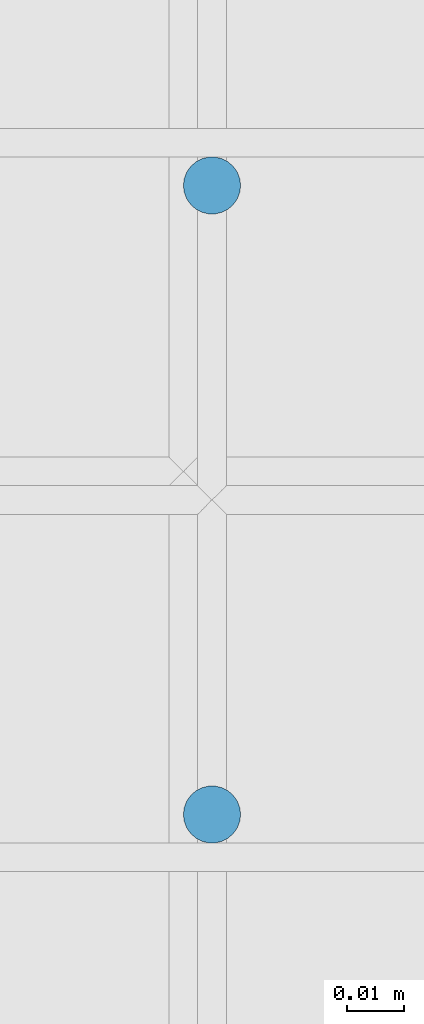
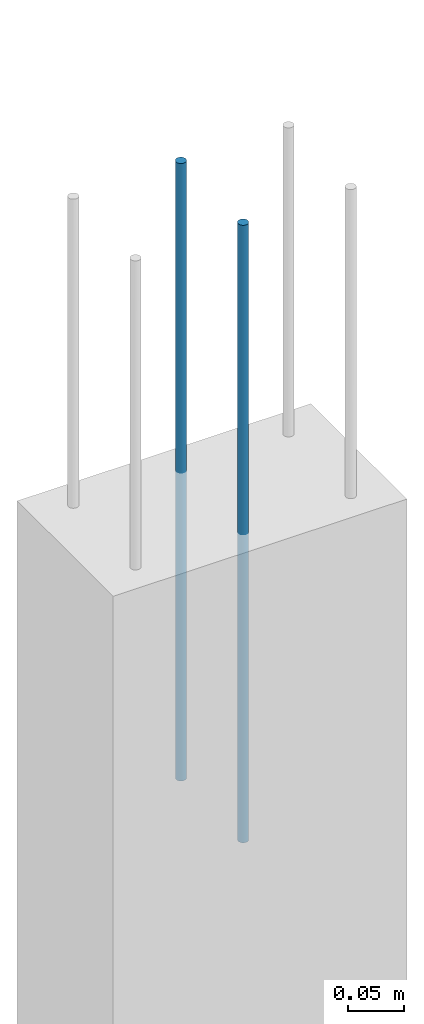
# One storey, part 96 of 119: 2 reinforcing bars.
"""IFC4 building model written with IfcOpenShell, lengths in centimetres."""

from ifc_helpers import new_model, entity, si_unit, derived_unit, frame, origin_with_axes, place, context, project, spatial, element, save


model = new_model("IFC4")

# Units and contexts
model_context = context("Model", 3, precision=1e-05, world=origin_with_axes(), identifier="Body")
ifc_project = project(units=[si_unit("LENGTHUNIT", "METRE", prefix="CENTI"), si_unit("VOLUMEUNIT", "CUBIC_METRE"), si_unit("AREAUNIT", "SQUARE_METRE"), si_unit("POWERUNIT", "WATT"), si_unit("LUMINOUSFLUXUNIT", "LUMEN"), si_unit("ELECTRICCURRENTUNIT", "AMPERE"), si_unit("PRESSUREUNIT", "PASCAL", prefix="KILO"), si_unit("MASSUNIT", "GRAM", prefix="KILO"), si_unit("PLANEANGLEUNIT", "RADIAN"), derived_unit("VOLUMETRICFLOWRATEUNIT", [(si_unit("LENGTHUNIT", "METRE"), 3), (si_unit("TIMEUNIT", "SECOND"), -1)])], contexts=[model_context])

# Site, building, storey
site_placement = place(None, frame((-4000.0, 0.0, 0.0), z_axis=(0.0, 0.0, 1.0), x_axis=(1.0, 0.0, 0.0)))
site = spatial("IfcSite", under=ifc_project, at=site_placement, Name="PADRÃO")
building_placement = place(site_placement, frame((0.0, 0.0, -14.0)))
building = spatial("IfcBuilding", under=site, at=building_placement, Name="CRECHE PRÉ-ESCOLA TIPO 2")
storey_placement = place(building_placement, origin_with_axes())
storey = spatial("IfcBuildingStorey", under=building, at=storey_placement, Name="FUNDAÇÃO", CompositionType="ELEMENT", Elevation=-14.0)

# Reinforcing bars
for number, where, z_axis, x_axis, name in (
    (1, (3372.5, 1024.58, 33.3573001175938), (0.0, 0.0, 1.0), (1.0, 0.0, 0.0), "P124 - Longitudinal"),
    (2, (3372.5, 1035.58, 33.3573001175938), (0.0, 0.0, 1.0), (1.0, 0.0, 0.0), "P124 - Longitudinal"),
):
    element("IfcReinforcingBar", number, at=place(storey_placement, frame(where, z_axis=z_axis, x_axis=x_axis)), inside=storey, Name=name, BarLength=0.0, CrossSectionArea=7.853981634e-05, NominalDiameter=1.0, PredefinedType="MAIN", context=model_context, shape_type="AdvancedSweptSolid", body=[
        entity("IfcSweptDiskSolid", entity("IfcCompositeCurve", [entity("IfcCompositeCurveSegment", "CONTINUOUS", True, entity("IfcPolyline", [entity("IfcCartesianPoint", [0.0, 0.0, -66.7146002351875]), entity("IfcCartesianPoint", [0.0, 0.0, 0.0])]))], False), 0.5),
    ])

save(model, "model.ifc")
